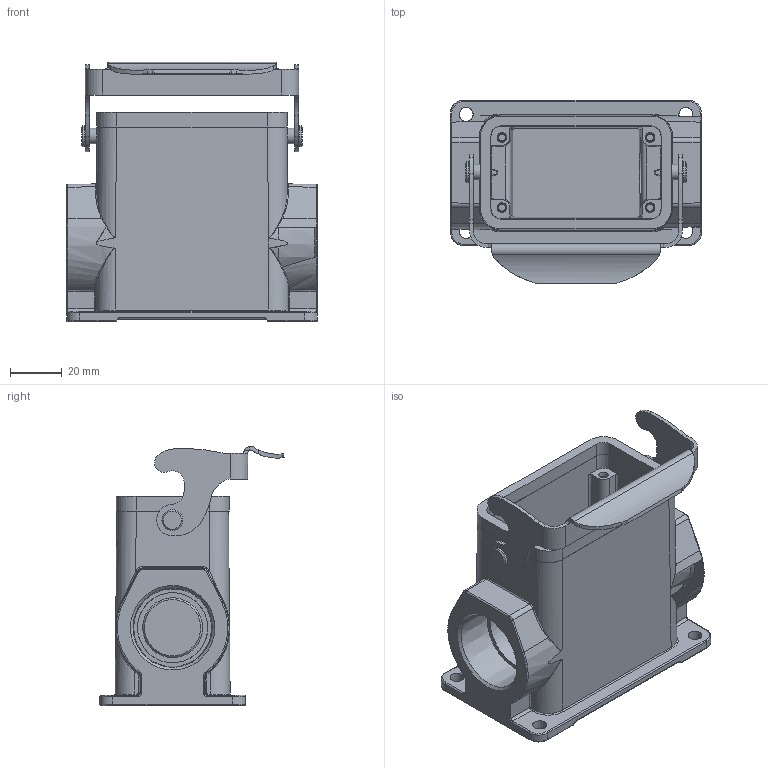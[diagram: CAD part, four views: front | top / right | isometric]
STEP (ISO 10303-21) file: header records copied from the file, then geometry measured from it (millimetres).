
FILE_DESCRIPTION (( 'STEP AP203' ), '1' );
FILE_NAME ('H10B-SGRH-LB-M32.STEP', '2023-06-06T05:13:48', ( '' ), ( '' ), 'SwSTEP 2.0', 'SolidWorks 2016', '' );
FILE_SCHEMA (( 'CONFIG_CONTROL_DESIGN' ));
Length unit declared in the file: millimetre
Products named in the file (1): H10B-SGRH-LB-M32
Bounding box: 96.5 x 70.91 x 99.79 mm (x, y, z)
Volume: 128034.9 mm3; surface area: 55928.4 mm2
Topology: 1 solids, 3 shells, 403 faces, 1040 edges, 665 vertices
Faces by surface type: cylinder 170, plane 120, bspline 39, torus 37, cone 33, sphere 4
Full cylindrical faces by diameter (mm): 3.3 x2, 4 x2, 6 x2, 6.1 x2, 8 x2, 27 x2
Entity records: 20553 total; most frequent: CARTESIAN_POINT 11728, ORIENTED_EDGE 1966, DIRECTION 1511, EDGE_CURVE 983, VERTEX_POINT 651, AXIS2_PLACEMENT_3D 571, EDGE_LOOP 484, FACE_OUTER_BOUND 419
